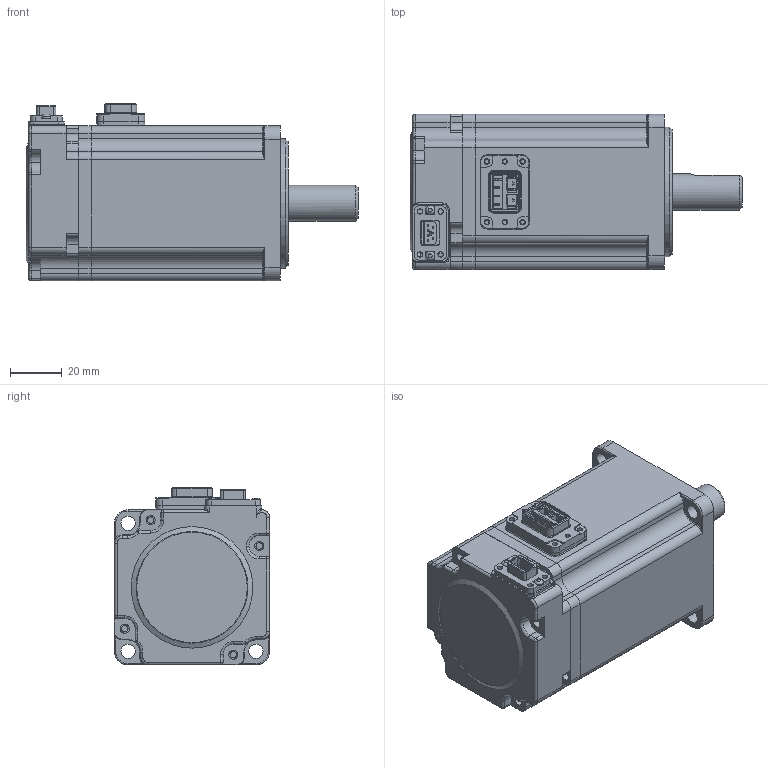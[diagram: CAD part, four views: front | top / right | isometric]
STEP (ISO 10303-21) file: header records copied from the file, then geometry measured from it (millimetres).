
FILE_DESCRIPTION (( 'STEP AP203' ), '1' );
FILE_NAME ('絳俋夤芞.STEP', '2021-08-20T06:57:41', ( '' ), ( '' ), 'SwSTEP 2.0', 'SolidWorks 2016', '' );
FILE_SCHEMA (( 'CONFIG_CONTROL_DESIGN' ));
Length unit declared in the file: millimetre
Products named in the file (1): 絳俋夤芞
Bounding box: 128.4 x 60 x 68.8 mm (x, y, z)
Surface area: 37410.4 mm2 (no closed solid volume)
Topology: 0 solids, 14 shells, 619 faces, 2074 edges, 1438 vertices
Faces by surface type: plane 301, cylinder 221, torus 52, bspline 22, cone 15, sphere 8
Full cylindrical faces by diameter (mm): 1.6 x2, 2.1 x8, 3.5 x10, 4.2 x1, 5.5 x4, 14 x1, 15 x1, 28 x1, 50 x1
Entity records: 23249 total; most frequent: CARTESIAN_POINT 5500, DIRECTION 3735, ORIENTED_EDGE 3301, EDGE_CURVE 1999, VERTEX_POINT 1421, LINE 1295, VECTOR 1295, AXIS2_PLACEMENT_3D 1220
